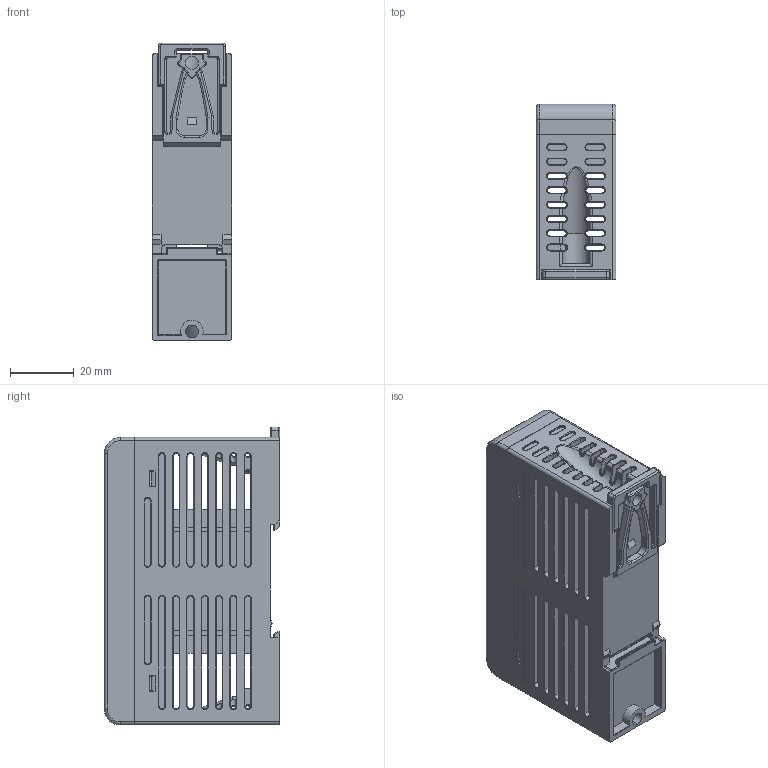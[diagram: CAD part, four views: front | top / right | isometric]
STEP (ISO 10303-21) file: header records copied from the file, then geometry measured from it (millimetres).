
FILE_DESCRIPTION((''),'2;1');
FILE_NAME('B1-CM_ASM','2021-06-09T',('Jacky Chang'),('ME Department of NTUST'),'PRO/ENGINEER BY PARAMETRIC TECHNOLOGY CORPORATION, 2014200','PRO/ENGINEER BY PARAMETRIC TECHNOLOGY CORPORATION, 2014200','');
FILE_SCHEMA(('CONFIG_CONTROL_DESIGN','GEOMETRIC_VALIDATION_PROPERTIES_MIM'));
Products named in the file (5): B1-CM22_UP_COVER; B1-CM_DOWN_COVER; JOIN; B1-CM_DOWN_COVER_ASM; B1-CM_ASM
Assembly tree (4 placements, depth 3):
  B1-CM_ASM
    B1-CM22_UP_COVER
    B1-CM_DOWN_COVER_ASM
      B1-CM_DOWN_COVER
      JOIN
Bounding box: 25 x 54.9 x 93.25 mm (x, y, z)
Volume: 26730.2 mm3; surface area: 36472.6 mm2
Topology: 3 solids, 3 shells, 1358 faces, 3637 edges, 2230 vertices
Faces by surface type: plane 566, cylinder 511, torus 164, bspline 92, sphere 23, cone 2
Entity records: 59995 total; most frequent: CARTESIAN_POINT 15048, ORIENTED_EDGE 7256, DIRECTION 6954, PRESENTATION_STYLE_ASSIGNMENT 3632, STYLED_ITEM 3631, CURVE_STYLE 3628, EDGE_CURVE 3628, AXIS2_PLACEMENT_3D 2405
